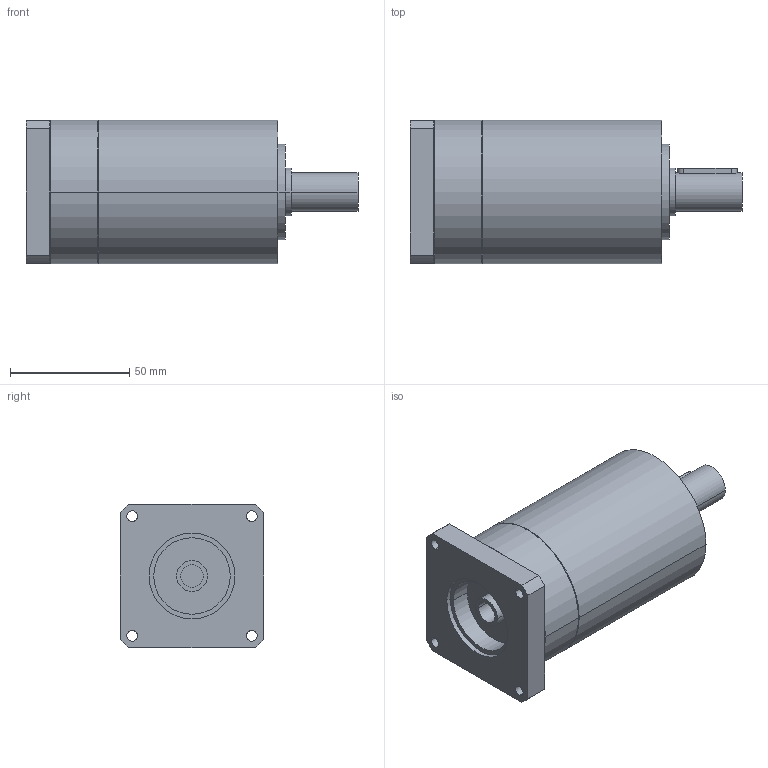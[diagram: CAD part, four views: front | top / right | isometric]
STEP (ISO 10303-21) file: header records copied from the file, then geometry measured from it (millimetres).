
FILE_DESCRIPTION(('CoCreate Modeling STEP Export'),'2;1');
FILE_NAME('GPR75_ig-9-12-16-20-24-30-36_16_B14_9.52_P22.stp','2014-08-25T16:06:53',(''),(''),'CoCreate Modeling STEP processor for AP214 (Solid Model)','CoCreate Modeling 16.00C 25-Feb-2009 (C) Parametric Technology GmbH','');
FILE_SCHEMA(('AUTOMOTIVE_DESIGN { 1 0 10303 214 1 1 1 1 }'));
Length unit declared in the file: millimetre
Products named in the file (2): GPR75_ig-9-12-16-20-24-30-36_16_B14_9.52_P22
Assembly tree (1 placements, depth 2):
  GPR75_ig-9-12-16-20-24-30-36_16_B14_9.52_P22
    GPR75_ig-9-12-16-20-24-30-36_16_B14_9.52_P22
Bounding box: 139 x 60 x 60 mm (x, y, z)
Volume: 305056.4 mm3; surface area: 36569.9 mm2
Topology: 1 solids, 1 shells, 73 faces, 196 edges, 138 vertices
Faces by surface type: cylinder 44, plane 23, cone 6
Entity records: 2014 total; most frequent: ORIENTED_EDGE 388, CARTESIAN_POINT 372, DIRECTION 272, EDGE_CURVE 194, VERTEX_POINT 138, AXIS2_PLACEMENT_3D 102, EDGE_LOOP 96, FACE_OUTER_BOUND 73
